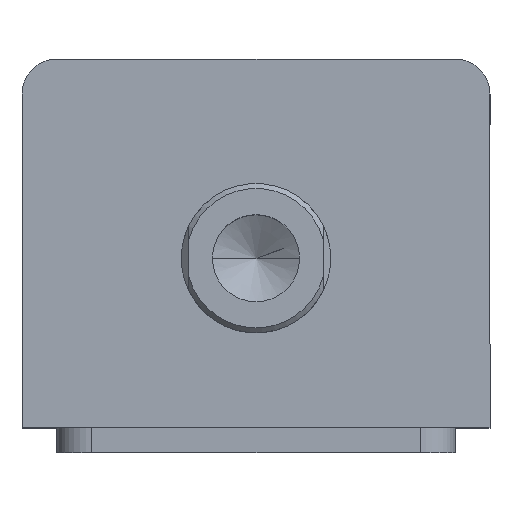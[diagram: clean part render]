
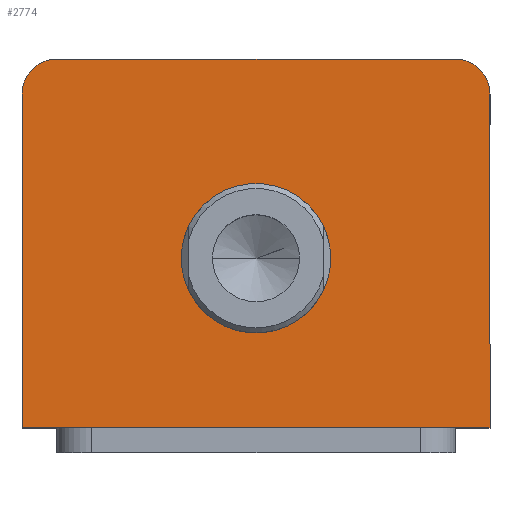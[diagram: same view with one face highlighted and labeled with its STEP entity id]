
A CAD part, top view. The second image highlights one B-rep face of the part: STEP entity #2774.
In plain terms, the highlighted planar face has unit normal (0, 0, 1).
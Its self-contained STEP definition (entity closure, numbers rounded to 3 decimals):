
#9 = VERTEX_POINT ( 'NONE', #703 ) ;
#44 = EDGE_CURVE ( 'NONE', #2402, #9, #268, .T. ) ;
#96 = ORIENTED_EDGE ( 'NONE', *, *, #1685, .T. ) ;
#144 = ORIENTED_EDGE ( 'NONE', *, *, #44, .T. ) ;
#158 = ORIENTED_EDGE ( 'NONE', *, *, #2378, .F. ) ;
#268 = LINE ( 'NONE', #668, #271 ) ;
#271 = VECTOR ( 'NONE', #666, 1000. ) ;
#303 = LINE ( 'NONE', #1021, #306 ) ;
#305 = LINE ( 'NONE', #1006, #308 ) ;
#306 = VECTOR ( 'NONE', #1009, 1000. ) ;
#308 = VECTOR ( 'NONE', #1002, 1000. ) ;
#311 = CIRCLE ( 'NONE', #1682, 7. ) ;
#329 = LINE ( 'NONE', #850, #335 ) ;
#335 = VECTOR ( 'NONE', #825, 1000. ) ;
#362 = VERTEX_POINT ( 'NONE', #643 ) ;
#370 = VERTEX_POINT ( 'NONE', #635 ) ;
#389 = VERTEX_POINT ( 'NONE', #616 ) ;
#544 = EDGE_LOOP ( 'NONE', ( #2504, #158 ) ) ;
#616 = CARTESIAN_POINT ( 'NONE',  ( 47., 30., 85. ) ) ;
#635 = CARTESIAN_POINT ( 'NONE',  ( -15., -3., 85. ) ) ;
#643 = CARTESIAN_POINT ( 'NONE',  ( -47., 30., 85. ) ) ;
#666 = DIRECTION ( 'NONE',  ( -1., 0., 0. ) ) ;
#668 = CARTESIAN_POINT ( 'NONE',  ( -47., 37., 85. ) ) ;
#703 = CARTESIAN_POINT ( 'NONE',  ( -40., 37., 85. ) ) ;
#739 = EDGE_LOOP ( 'NONE', ( #144, #2639, #96, #2535, #2655, #2665 ) ) ;
#763 = EDGE_CURVE ( 'NONE', #2432, #389, #303, .T. ) ;
#764 = EDGE_CURVE ( 'NONE', #2411, #2432, #305, .T. ) ;
#770 = EDGE_CURVE ( 'NONE', #389, #2402, #311, .T. ) ;
#825 = DIRECTION ( 'NONE',  ( 0., -1., 0. ) ) ;
#850 = CARTESIAN_POINT ( 'NONE',  ( -47., 37., 85. ) ) ;
#930 = DIRECTION ( 'NONE',  ( 1., 0., 0. ) ) ;
#931 = DIRECTION ( 'NONE',  ( 0., 0., 1. ) ) ;
#934 = CARTESIAN_POINT ( 'NONE',  ( 40., 30., 85. ) ) ;
#1002 = DIRECTION ( 'NONE',  ( 1., 0., 0. ) ) ;
#1006 = CARTESIAN_POINT ( 'NONE',  ( -47., -37., 85. ) ) ;
#1009 = DIRECTION ( 'NONE',  ( 0., 1., 0. ) ) ;
#1021 = CARTESIAN_POINT ( 'NONE',  ( 47., 37., 85. ) ) ;
#1028 = DIRECTION ( 'NONE',  ( 1., 0., 0. ) ) ;
#1029 = DIRECTION ( 'NONE',  ( 0., 0., 1. ) ) ;
#1030 = CARTESIAN_POINT ( 'NONE',  ( -40., 30., 85. ) ) ;
#1112 = DIRECTION ( 'NONE',  ( 1., 0., 0. ) ) ;
#1114 = DIRECTION ( 'NONE',  ( 0., 0., 1. ) ) ;
#1115 = CARTESIAN_POINT ( 'NONE',  ( 0., -3., 85. ) ) ;
#1153 = AXIS2_PLACEMENT_3D ( 'NONE', #2121, #2116, #2115 ) ;
#1242 = AXIS2_PLACEMENT_3D ( 'NONE', #1030, #1029, #1028 ) ;
#1377 = DIRECTION ( 'NONE',  ( 1., 0., 0. ) ) ;
#1380 = DIRECTION ( 'NONE',  ( 0., 0., 1. ) ) ;
#1383 = CARTESIAN_POINT ( 'NONE',  ( 0., -3., 85. ) ) ;
#1611 = CARTESIAN_POINT ( 'NONE',  ( 47., -37., 85. ) ) ;
#1631 = CARTESIAN_POINT ( 'NONE',  ( 15., -3., 85. ) ) ;
#1639 = CARTESIAN_POINT ( 'NONE',  ( -47., -37., 85. ) ) ;
#1652 = CARTESIAN_POINT ( 'NONE',  ( 40., 37., 85. ) ) ;
#1676 = AXIS2_PLACEMENT_3D ( 'NONE', #1115, #1114, #1112 ) ;
#1682 = AXIS2_PLACEMENT_3D ( 'NONE', #934, #931, #930 ) ;
#1685 = EDGE_CURVE ( 'NONE', #362, #2411, #329, .T. ) ;
#1698 = EDGE_CURVE ( 'NONE', #2418, #370, #1731, .T. ) ;
#1731 = CIRCLE ( 'NONE', #1676, 15. ) ;
#1764 = CIRCLE ( 'NONE', #1242, 7. ) ;
#1897 = CIRCLE ( 'NONE', #2260, 15. ) ;
#2032 = EDGE_CURVE ( 'NONE', #9, #362, #1764, .T. ) ;
#2115 = DIRECTION ( 'NONE',  ( 1., 0., 0. ) ) ;
#2116 = DIRECTION ( 'NONE',  ( 0., 0., 1. ) ) ;
#2120 = PLANE ( 'NONE',  #1153 ) ;
#2121 = CARTESIAN_POINT ( 'NONE',  ( 0., 0., 85. ) ) ;
#2260 = AXIS2_PLACEMENT_3D ( 'NONE', #1383, #1380, #1377 ) ;
#2378 = EDGE_CURVE ( 'NONE', #370, #2418, #1897, .T. ) ;
#2402 = VERTEX_POINT ( 'NONE', #1652 ) ;
#2411 = VERTEX_POINT ( 'NONE', #1639 ) ;
#2418 = VERTEX_POINT ( 'NONE', #1631 ) ;
#2432 = VERTEX_POINT ( 'NONE', #1611 ) ;
#2504 = ORIENTED_EDGE ( 'NONE', *, *, #1698, .F. ) ;
#2535 = ORIENTED_EDGE ( 'NONE', *, *, #764, .T. ) ;
#2639 = ORIENTED_EDGE ( 'NONE', *, *, #2032, .T. ) ;
#2655 = ORIENTED_EDGE ( 'NONE', *, *, #763, .T. ) ;
#2665 = ORIENTED_EDGE ( 'NONE', *, *, #770, .T. ) ;
#2774 = ADVANCED_FACE ( 'NONE', ( #2831, #2837 ), #2120, .T. ) ;
#2831 = FACE_BOUND ( 'NONE', #544, .T. ) ;
#2837 = FACE_OUTER_BOUND ( 'NONE', #739, .T. ) ;
